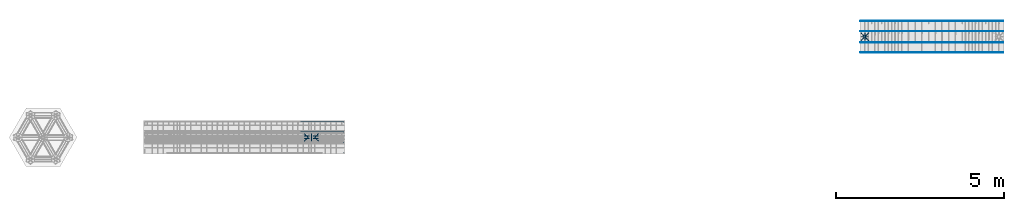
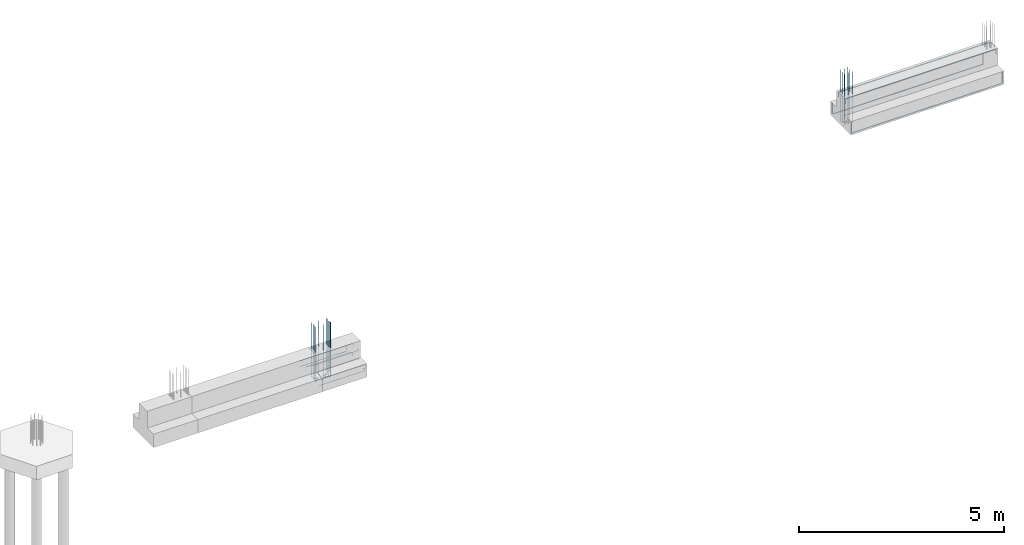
# One storey, part 22 of 23: 5 reinforcing bars.
"""IFC2X3 building model written with IfcOpenShell, lengths in metres."""

from ifc_helpers import new_model, entity, si_unit, direction, frame, origin, place, context, subcontext, project, spatial, shape, source, transform, mapped, element, save


model = new_model("IFC2X3")

# Units and contexts
model_context = context("Model", 3, precision=0.0, world=origin(), true_north=direction((0.0, 1.0)))
plan_context = context("Plan", 3, precision=0.0, world=origin(), true_north=direction((0.0, 1.0)))
body_context = subcontext(model_context, "Body", "Model", "MODEL_VIEW", scale=1.0)
ifc_project = project(units=[si_unit("LENGTHUNIT", "METRE"), si_unit("AREAUNIT", "SQUARE_METRE"), si_unit("VOLUMEUNIT", "CUBIC_METRE"), si_unit("PLANEANGLEUNIT", "RADIAN"), si_unit("THERMODYNAMICTEMPERATUREUNIT", "DEGREE_CELSIUS"), si_unit("FORCEUNIT", "NEWTON"), si_unit("MASSUNIT", "GRAM", prefix="KILO")], contexts=[model_context, plan_context])

# Site, building, storey
placement = place(None, origin())
site = spatial("IfcSite", under=ifc_project, at=placement, Name="Default Site", CompositionType="ELEMENT")
building = spatial("IfcBuilding", under=site, at=placement, Name="Default Building", CompositionType="ELEMENT")
storey_placement = place(placement, frame((0.0, 0.0, 0.0), z_axis=(1.0, 0.0, 0.0), x_axis=(0.0, 0.0, 1.0)))
storey = spatial("IfcBuildingStorey", under=building, at=storey_placement, Name="Piano 0", CompositionType="ELEMENT", Elevation=0.0)

# Reinforcing bars
shared_shape_1 = source(origin(), body_context, None, "AdvancedSweptSolid", [
    entity("IfcSweptDiskSolid", entity("IfcCompositeCurve", [entity("IfcCompositeCurveSegment", "CONTINUOUS", True, entity("IfcPolyline", [entity("IfcCartesianPoint", [0.0, 0.0, 0.0]), entity("IfcCartesianPoint", [0.326909, 0.0, 0.0]), entity("IfcCartesianPoint", [1.274909, 0.0, 0.0]), entity("IfcCartesianPoint", [1.286909, -0.003215, 0.0]), entity("IfcCartesianPoint", [1.295693, -0.012, 0.0]), entity("IfcCartesianPoint", [1.298909, -0.024, 0.0]), entity("IfcCartesianPoint", [1.298909, -0.12, 0.0])]))], False), 0.006, 0.0, 0.0),
])
shared_shape_2 = source(origin(), body_context, None, "MappedRepresentation", [mapped(shared_shape_1, transform((15.673091, 0.166, -0.298)))])
shared_shape_3 = source(origin(), body_context, None, "AdvancedSweptSolid", [
    entity("IfcSweptDiskSolid", entity("IfcCompositeCurve", [entity("IfcCompositeCurveSegment", "CONTINUOUS", True, entity("IfcPolyline", [entity("IfcCartesianPoint", [0.0, 0.0, 0.0]), entity("IfcCartesianPoint", [0.326909, 0.0, 0.0]), entity("IfcCartesianPoint", [1.274909, 0.0, 0.0]), entity("IfcCartesianPoint", [1.286909, 0.003215, 0.0]), entity("IfcCartesianPoint", [1.295693, 0.012, 0.0]), entity("IfcCartesianPoint", [1.298909, 0.024, 0.0]), entity("IfcCartesianPoint", [1.298909, 0.12, 0.0])]))], False), 0.006, 0.0, 0.0),
])
shared_shape_4 = source(origin(), body_context, None, "MappedRepresentation", [mapped(shared_shape_3, transform((15.673091, -0.166, -0.298)))])
shared_shape_5 = source(origin(), body_context, None, "AdvancedSweptSolid", [
    entity("IfcSweptDiskSolid", entity("IfcCompositeCurve", [entity("IfcCompositeCurveSegment", "CONTINUOUS", True, entity("IfcPolyline", [entity("IfcCartesianPoint", [0.0, 0.0, 0.0]), entity("IfcCartesianPoint", [0.326909, 0.0, 0.0]), entity("IfcCartesianPoint", [1.274909, 0.0, 0.0]), entity("IfcCartesianPoint", [1.286909, -0.003215, 0.0]), entity("IfcCartesianPoint", [1.295693, -0.012, 0.0]), entity("IfcCartesianPoint", [1.298909, -0.024, 0.0]), entity("IfcCartesianPoint", [1.298909, -0.12, 0.0])]))], False), 0.006, 0.0, 0.0),
])
shared_shape_6 = source(origin(), body_context, None, "MappedRepresentation", [mapped(shared_shape_5, transform((15.673091, 0.466, -0.713)))])
shared_shape_7 = source(origin(), body_context, None, "AdvancedSweptSolid", [
    entity("IfcSweptDiskSolid", entity("IfcCompositeCurve", [entity("IfcCompositeCurveSegment", "CONTINUOUS", True, entity("IfcPolyline", [entity("IfcCartesianPoint", [0.0, 0.0, 0.0]), entity("IfcCartesianPoint", [0.326909, 0.0, 0.0]), entity("IfcCartesianPoint", [1.274909, 0.0, 0.0]), entity("IfcCartesianPoint", [1.286909, 0.003215, 0.0]), entity("IfcCartesianPoint", [1.295693, 0.012, 0.0]), entity("IfcCartesianPoint", [1.298909, 0.024, 0.0]), entity("IfcCartesianPoint", [1.298909, 0.12, 0.0])]))], False), 0.006, 0.0, 0.0),
])
shared_shape_8 = source(origin(), body_context, None, "MappedRepresentation", [mapped(shared_shape_7, transform((15.673091, -0.466, -0.713)))])
shared_shape_9 = source(origin(), body_context, None, "AdvancedSweptSolid", [
    entity("IfcSweptDiskSolid", entity("IfcCompositeCurve", [entity("IfcCompositeCurveSegment", "CONTINUOUS", True, entity("IfcPolyline", [entity("IfcCartesianPoint", [0.0, 0.0, 0.0]), entity("IfcCartesianPoint", [0.326909, 0.0, 0.0]), entity("IfcCartesianPoint", [1.274909, 0.0, 0.0]), entity("IfcCartesianPoint", [1.286909, 0.0, -0.003215]), entity("IfcCartesianPoint", [1.295693, 0.0, -0.012]), entity("IfcCartesianPoint", [1.298909, 0.0, -0.024]), entity("IfcCartesianPoint", [1.298909, 0.0, -0.12])]))], False), 0.006, 0.0, 0.0),
])
shared_shape_10 = source(origin(), body_context, None, "MappedRepresentation", [mapped(shared_shape_9, transform((15.673091, 0.166, -0.542)))])
shared_shape_11 = source(origin(), body_context, None, "AdvancedSweptSolid", [
    entity("IfcSweptDiskSolid", entity("IfcCompositeCurve", [entity("IfcCompositeCurveSegment", "CONTINUOUS", True, entity("IfcPolyline", [entity("IfcCartesianPoint", [0.0, 0.0, 0.0]), entity("IfcCartesianPoint", [0.326909, 0.0, 0.0]), entity("IfcCartesianPoint", [1.274909, 0.0, 0.0]), entity("IfcCartesianPoint", [1.286909, 0.0, -0.003215]), entity("IfcCartesianPoint", [1.295693, 0.0, -0.012]), entity("IfcCartesianPoint", [1.298909, 0.0, -0.024]), entity("IfcCartesianPoint", [1.298909, 0.0, -0.12])]))], False), 0.006, 0.0, 0.0),
])
shared_shape_12 = source(origin(), body_context, None, "MappedRepresentation", [mapped(shared_shape_11, transform((15.673091, 0.466, -0.542)))])
shared_shape_13 = source(origin(), body_context, None, "AdvancedSweptSolid", [
    entity("IfcSweptDiskSolid", entity("IfcCompositeCurve", [entity("IfcCompositeCurveSegment", "CONTINUOUS", True, entity("IfcPolyline", [entity("IfcCartesianPoint", [0.0, 0.0, 0.0]), entity("IfcCartesianPoint", [0.326909, 0.0, 0.0]), entity("IfcCartesianPoint", [1.274909, 0.0, 0.0]), entity("IfcCartesianPoint", [1.286909, 0.0, -0.003215]), entity("IfcCartesianPoint", [1.295693, 0.0, -0.012]), entity("IfcCartesianPoint", [1.298909, 0.0, -0.024]), entity("IfcCartesianPoint", [1.298909, 0.0, -0.12])]))], False), 0.006, 0.0, 0.0),
])
shared_shape_14 = source(origin(), body_context, None, "MappedRepresentation", [mapped(shared_shape_13, transform((15.673091, -0.466, -0.542)))])
shared_shape_15 = source(origin(), body_context, None, "AdvancedSweptSolid", [
    entity("IfcSweptDiskSolid", entity("IfcCompositeCurve", [entity("IfcCompositeCurveSegment", "CONTINUOUS", True, entity("IfcPolyline", [entity("IfcCartesianPoint", [0.0, 0.0, 0.0]), entity("IfcCartesianPoint", [0.326909, 0.0, 0.0]), entity("IfcCartesianPoint", [1.274909, 0.0, 0.0]), entity("IfcCartesianPoint", [1.286909, 0.0, -0.003215]), entity("IfcCartesianPoint", [1.295693, 0.0, -0.012]), entity("IfcCartesianPoint", [1.298909, 0.0, -0.024]), entity("IfcCartesianPoint", [1.298909, 0.0, -0.12])]))], False), 0.006, 0.0, 0.0),
])
shared_shape_16 = source(origin(), body_context, None, "MappedRepresentation", [mapped(shared_shape_15, transform((15.673091, -0.166, -0.542)))])
element("IfcReinforcingBar", 1, at=placement, inside=storey, Name="Arm Generica; Trave:3 [Piano:0]", BarLength=11.31908, BarRole="NOTDEFINED", BarSurface="TEXTURED", NominalDiameter=0.012, shapes=[
    shape(body_context, None, "MappedRepresentation", [mapped(shared_shape_2, transform((0.0, 0.0, 0.0))), mapped(shared_shape_4, transform((0.0, 0.0, 0.0))), mapped(shared_shape_6, transform((0.0, 0.0, 0.0))), mapped(shared_shape_8, transform((0.0, 0.0, 0.0))), mapped(shared_shape_10, transform((0.0, 0.0, 0.0))), mapped(shared_shape_12, transform((0.0, 0.0, 0.0))), mapped(shared_shape_14, transform((0.0, 0.0, 0.0))), mapped(shared_shape_16, transform((0.0, 0.0, 0.0)))]),
])
shared_shape_17 = source(origin(), body_context, None, "AdvancedSweptSolid", [
    entity("IfcSweptDiskSolid", entity("IfcCompositeCurve", [entity("IfcCompositeCurveSegment", "CONTINUOUS", True, entity("IfcPolyline", [entity("IfcCartesianPoint", [0.0, 0.0, 0.0]), entity("IfcCartesianPoint", [0.0, 0.0, 0.112]), entity("IfcCartesianPoint", [0.003751, 0.0, 0.126]), entity("IfcCartesianPoint", [0.014, 0.0, 0.136249]), entity("IfcCartesianPoint", [0.028, 0.0, 0.14]), entity("IfcCartesianPoint", [4.216, 0.0, 0.14]), entity("IfcCartesianPoint", [4.23, 0.0, 0.136249]), entity("IfcCartesianPoint", [4.240249, 0.0, 0.126]), entity("IfcCartesianPoint", [4.244, 0.0, 0.112]), entity("IfcCartesianPoint", [4.244, 0.0, 0.0])]))], False), 0.007, 0.0, 0.0),
])
shared_shape_18 = source(origin(), body_context, None, "MappedRepresentation", [mapped(shared_shape_17, transform((32.378, 2.835, -0.182)))])
shared_shape_19 = source(origin(), body_context, None, "AdvancedSweptSolid", [
    entity("IfcSweptDiskSolid", entity("IfcCompositeCurve", [entity("IfcCompositeCurveSegment", "CONTINUOUS", True, entity("IfcPolyline", [entity("IfcCartesianPoint", [0.0, 0.0, 0.0]), entity("IfcCartesianPoint", [0.0, 0.0, 0.112]), entity("IfcCartesianPoint", [0.003751, 0.0, 0.126]), entity("IfcCartesianPoint", [0.014, 0.0, 0.136249]), entity("IfcCartesianPoint", [0.028, 0.0, 0.14]), entity("IfcCartesianPoint", [4.216, 0.0, 0.14]), entity("IfcCartesianPoint", [4.23, 0.0, 0.136249]), entity("IfcCartesianPoint", [4.240249, 0.0, 0.126]), entity("IfcCartesianPoint", [4.244, 0.0, 0.112]), entity("IfcCartesianPoint", [4.244, 0.0, 0.0])]))], False), 0.007, 0.0, 0.0),
])
shared_shape_20 = source(origin(), body_context, None, "MappedRepresentation", [mapped(shared_shape_19, transform((32.378, 3.165, -0.182)))])
element("IfcReinforcingBar", 2, at=placement, inside=storey, Name="Arm Superiore; Trave:4 [Piano:0]", BarLength=9.022963, BarRole="MAIN", BarSurface="TEXTURED", NominalDiameter=0.014, shapes=[
    shape(body_context, None, "MappedRepresentation", [mapped(shared_shape_18, transform((0.0, 0.0, 0.0))), mapped(shared_shape_20, transform((0.0, 0.0, 0.0)))]),
])
shared_shape_21 = source(origin(), body_context, None, "AdvancedSweptSolid", [
    entity("IfcSweptDiskSolid", entity("IfcCompositeCurve", [entity("IfcCompositeCurveSegment", "CONTINUOUS", True, entity("IfcPolyline", [entity("IfcCartesianPoint", [0.0, 0.0, 0.0]), entity("IfcCartesianPoint", [0.0, 0.0, -0.296]), entity("IfcCartesianPoint", [0.003751, 0.0, -0.31]), entity("IfcCartesianPoint", [0.014, 0.0, -0.320249]), entity("IfcCartesianPoint", [0.028, 0.0, -0.324]), entity("IfcCartesianPoint", [4.216, 0.0, -0.324]), entity("IfcCartesianPoint", [4.23, 0.0, -0.320249]), entity("IfcCartesianPoint", [4.240249, 0.0, -0.31]), entity("IfcCartesianPoint", [4.244, 0.0, -0.296]), entity("IfcCartesianPoint", [4.244, 0.0, 0.0])]))], False), 0.007, 0.0, 0.0),
])
shared_shape_22 = source(origin(), body_context, None, "MappedRepresentation", [mapped(shared_shape_21, transform((32.378, 2.535, -0.548)))])
shared_shape_23 = source(origin(), body_context, None, "AdvancedSweptSolid", [
    entity("IfcSweptDiskSolid", entity("IfcCompositeCurve", [entity("IfcCompositeCurveSegment", "CONTINUOUS", True, entity("IfcPolyline", [entity("IfcCartesianPoint", [0.0, 0.0, 0.0]), entity("IfcCartesianPoint", [0.0, 0.0, -0.296]), entity("IfcCartesianPoint", [0.003751, 0.0, -0.31]), entity("IfcCartesianPoint", [0.014, 0.0, -0.320249]), entity("IfcCartesianPoint", [0.028, 0.0, -0.324]), entity("IfcCartesianPoint", [4.216, 0.0, -0.324]), entity("IfcCartesianPoint", [4.23, 0.0, -0.320249]), entity("IfcCartesianPoint", [4.240249, 0.0, -0.31]), entity("IfcCartesianPoint", [4.244, 0.0, -0.296]), entity("IfcCartesianPoint", [4.244, 0.0, 0.0])]))], False), 0.007, 0.0, 0.0),
])
shared_shape_24 = source(origin(), body_context, None, "MappedRepresentation", [mapped(shared_shape_23, transform((32.378, 3.465, -0.548)))])
element("IfcReinforcingBar", 3, at=placement, inside=storey, Name="Arm Inferiore; Trave:4 [Piano:0]", BarLength=9.758963, BarRole="MAIN", BarSurface="TEXTURED", NominalDiameter=0.014, shapes=[
    shape(body_context, None, "MappedRepresentation", [mapped(shared_shape_22, transform((0.0, 0.0, 0.0))), mapped(shared_shape_24, transform((0.0, 0.0, 0.0)))]),
])
shared_shape_25 = source(origin(), body_context, None, "AdvancedSweptSolid", [
    entity("IfcSweptDiskSolid", entity("IfcCompositeCurve", [entity("IfcCompositeCurveSegment", "CONTINUOUS", True, entity("IfcPolyline", [entity("IfcCartesianPoint", [0.0, 0.0, 0.0]), entity("IfcCartesianPoint", [-0.079196, -0.079196, 0.0]), entity("IfcCartesianPoint", [-0.089095, -0.089095, 0.003751]), entity("IfcCartesianPoint", [-0.096342, -0.096342, 0.014]), entity("IfcCartesianPoint", [-0.098995, -0.098995, 0.028]), entity("IfcCartesianPoint", [-0.098995, -0.098995, 1.635])]))], False), 0.007, 0.0, 0.0),
])
shared_shape_26 = source(origin(), body_context, None, "MappedRepresentation", [mapped(shared_shape_25, transform((15.893894, -0.006106, -0.865)))])
shared_shape_27 = source(origin(), body_context, None, "AdvancedSweptSolid", [
    entity("IfcSweptDiskSolid", entity("IfcCompositeCurve", [entity("IfcCompositeCurveSegment", "CONTINUOUS", True, entity("IfcPolyline", [entity("IfcCartesianPoint", [0.0, 0.0, 0.0]), entity("IfcCartesianPoint", [0.079196, -0.079196, 0.0]), entity("IfcCartesianPoint", [0.089095, -0.089095, 0.003751]), entity("IfcCartesianPoint", [0.096342, -0.096342, 0.014]), entity("IfcCartesianPoint", [0.098995, -0.098995, 0.028]), entity("IfcCartesianPoint", [0.098995, -0.098995, 1.635])]))], False), 0.007, 0.0, 0.0),
])
shared_shape_28 = source(origin(), body_context, None, "MappedRepresentation", [mapped(shared_shape_27, transform((16.106106, -0.006106, -0.865)))])
shared_shape_29 = source(origin(), body_context, None, "AdvancedSweptSolid", [
    entity("IfcSweptDiskSolid", entity("IfcCompositeCurve", [entity("IfcCompositeCurveSegment", "CONTINUOUS", True, entity("IfcPolyline", [entity("IfcCartesianPoint", [0.0, 0.0, 0.0]), entity("IfcCartesianPoint", [0.079196, 0.079196, 0.0]), entity("IfcCartesianPoint", [0.089095, 0.089095, 0.003751]), entity("IfcCartesianPoint", [0.096342, 0.096342, 0.014]), entity("IfcCartesianPoint", [0.098995, 0.098995, 0.028]), entity("IfcCartesianPoint", [0.098995, 0.098995, 1.635])]))], False), 0.007, 0.0, 0.0),
])
shared_shape_30 = source(origin(), body_context, None, "MappedRepresentation", [mapped(shared_shape_29, transform((16.106106, 0.006106, -0.865)))])
shared_shape_31 = source(origin(), body_context, None, "AdvancedSweptSolid", [
    entity("IfcSweptDiskSolid", entity("IfcCompositeCurve", [entity("IfcCompositeCurveSegment", "CONTINUOUS", True, entity("IfcPolyline", [entity("IfcCartesianPoint", [0.0, 0.0, 0.0]), entity("IfcCartesianPoint", [-0.079196, 0.079196, 0.0]), entity("IfcCartesianPoint", [-0.089095, 0.089095, 0.003751]), entity("IfcCartesianPoint", [-0.096342, 0.096342, 0.014]), entity("IfcCartesianPoint", [-0.098995, 0.098995, 0.028]), entity("IfcCartesianPoint", [-0.098995, 0.098995, 1.635])]))], False), 0.007, 0.0, 0.0),
])
shared_shape_32 = source(origin(), body_context, None, "MappedRepresentation", [mapped(shared_shape_31, transform((15.893894, 0.006106, -0.865)))])
shared_shape_33 = source(origin(), body_context, None, "AdvancedSweptSolid", [
    entity("IfcSweptDiskSolid", entity("IfcCompositeCurve", [entity("IfcCompositeCurveSegment", "CONTINUOUS", True, entity("IfcPolyline", [entity("IfcCartesianPoint", [0.0, 0.0, 0.0]), entity("IfcCartesianPoint", [0.0, -0.112, 0.0]), entity("IfcCartesianPoint", [0.0, -0.126, 0.003751]), entity("IfcCartesianPoint", [0.0, -0.136249, 0.014]), entity("IfcCartesianPoint", [0.0, -0.14, 0.028]), entity("IfcCartesianPoint", [0.0, -0.14, 1.635])]))], False), 0.007, 0.0, 0.0),
])
shared_shape_34 = source(origin(), body_context, None, "MappedRepresentation", [mapped(shared_shape_33, transform((16.0, 0.039, -0.865)))])
shared_shape_35 = source(origin(), body_context, None, "AdvancedSweptSolid", [
    entity("IfcSweptDiskSolid", entity("IfcCompositeCurve", [entity("IfcCompositeCurveSegment", "CONTINUOUS", True, entity("IfcPolyline", [entity("IfcCartesianPoint", [0.0, 0.0, 0.0]), entity("IfcCartesianPoint", [0.112, 0.0, 0.0]), entity("IfcCartesianPoint", [0.126, 0.0, 0.003751]), entity("IfcCartesianPoint", [0.136249, 0.0, 0.014]), entity("IfcCartesianPoint", [0.14, 0.0, 0.028]), entity("IfcCartesianPoint", [0.14, 0.0, 1.635])]))], False), 0.007, 0.0, 0.0),
])
shared_shape_36 = source(origin(), body_context, None, "MappedRepresentation", [mapped(shared_shape_35, transform((16.061, -0.038333, -0.865)))])
shared_shape_37 = source(origin(), body_context, None, "AdvancedSweptSolid", [
    entity("IfcSweptDiskSolid", entity("IfcCompositeCurve", [entity("IfcCompositeCurveSegment", "CONTINUOUS", True, entity("IfcPolyline", [entity("IfcCartesianPoint", [0.0, 0.0, 0.0]), entity("IfcCartesianPoint", [0.112, 0.0, 0.0]), entity("IfcCartesianPoint", [0.126, 0.0, 0.003751]), entity("IfcCartesianPoint", [0.136249, 0.0, 0.014]), entity("IfcCartesianPoint", [0.14, 0.0, 0.028]), entity("IfcCartesianPoint", [0.14, 0.0, 1.635])]))], False), 0.007, 0.0, 0.0),
])
shared_shape_38 = source(origin(), body_context, None, "MappedRepresentation", [mapped(shared_shape_37, transform((16.061, 0.038333, -0.865)))])
shared_shape_39 = source(origin(), body_context, None, "AdvancedSweptSolid", [
    entity("IfcSweptDiskSolid", entity("IfcCompositeCurve", [entity("IfcCompositeCurveSegment", "CONTINUOUS", True, entity("IfcPolyline", [entity("IfcCartesianPoint", [0.0, 0.0, 0.0]), entity("IfcCartesianPoint", [0.0, 0.112, 0.0]), entity("IfcCartesianPoint", [0.0, 0.126, 0.003751]), entity("IfcCartesianPoint", [0.0, 0.136249, 0.014]), entity("IfcCartesianPoint", [0.0, 0.14, 0.028]), entity("IfcCartesianPoint", [0.0, 0.14, 1.635])]))], False), 0.007, 0.0, 0.0),
])
shared_shape_40 = source(origin(), body_context, None, "MappedRepresentation", [mapped(shared_shape_39, transform((16.0, -0.039, -0.865)))])
shared_shape_41 = source(origin(), body_context, None, "AdvancedSweptSolid", [
    entity("IfcSweptDiskSolid", entity("IfcCompositeCurve", [entity("IfcCompositeCurveSegment", "CONTINUOUS", True, entity("IfcPolyline", [entity("IfcCartesianPoint", [0.0, 0.0, 0.0]), entity("IfcCartesianPoint", [-0.112, 0.0, 0.0]), entity("IfcCartesianPoint", [-0.126, 0.0, 0.003751]), entity("IfcCartesianPoint", [-0.136249, 0.0, 0.014]), entity("IfcCartesianPoint", [-0.14, 0.0, 0.028]), entity("IfcCartesianPoint", [-0.14, 0.0, 1.635])]))], False), 0.007, 0.0, 0.0),
])
shared_shape_42 = source(origin(), body_context, None, "MappedRepresentation", [mapped(shared_shape_41, transform((15.939, 0.038333, -0.865)))])
shared_shape_43 = source(origin(), body_context, None, "AdvancedSweptSolid", [
    entity("IfcSweptDiskSolid", entity("IfcCompositeCurve", [entity("IfcCompositeCurveSegment", "CONTINUOUS", True, entity("IfcPolyline", [entity("IfcCartesianPoint", [0.0, 0.0, 0.0]), entity("IfcCartesianPoint", [-0.112, 0.0, 0.0]), entity("IfcCartesianPoint", [-0.126, 0.0, 0.003751]), entity("IfcCartesianPoint", [-0.136249, 0.0, 0.014]), entity("IfcCartesianPoint", [-0.14, 0.0, 0.028]), entity("IfcCartesianPoint", [-0.14, 0.0, 1.635])]))], False), 0.007, 0.0, 0.0),
])
shared_shape_44 = source(origin(), body_context, None, "MappedRepresentation", [mapped(shared_shape_43, transform((15.939, -0.038333, -0.865)))])
element("IfcReinforcingBar", 4, at=placement, inside=storey, Name="Arm Ancoraggio; Nodo:5 [Piano:0]", BarLength=17.75, BarSurface="TEXTURED", NominalDiameter=0.014, shapes=[
    shape(body_context, None, "MappedRepresentation", [mapped(shared_shape_26, transform((0.0, 0.0, 0.0))), mapped(shared_shape_28, transform((0.0, 0.0, 0.0))), mapped(shared_shape_30, transform((0.0, 0.0, 0.0))), mapped(shared_shape_32, transform((0.0, 0.0, 0.0))), mapped(shared_shape_34, transform((0.0, 0.0, 0.0))), mapped(shared_shape_36, transform((0.0, 0.0, 0.0))), mapped(shared_shape_38, transform((0.0, 0.0, 0.0))), mapped(shared_shape_40, transform((0.0, 0.0, 0.0))), mapped(shared_shape_42, transform((0.0, 0.0, 0.0))), mapped(shared_shape_44, transform((0.0, 0.0, 0.0)))]),
])
shared_shape_45 = source(origin(), body_context, None, "AdvancedSweptSolid", [
    entity("IfcSweptDiskSolid", entity("IfcCompositeCurve", [entity("IfcCompositeCurveSegment", "CONTINUOUS", True, entity("IfcPolyline", [entity("IfcCartesianPoint", [0.0, 0.0, 0.0]), entity("IfcCartesianPoint", [-0.067882, -0.067882, 0.0]), entity("IfcCartesianPoint", [-0.076368, -0.076368, 0.003215]), entity("IfcCartesianPoint", [-0.082579, -0.082579, 0.012]), entity("IfcCartesianPoint", [-0.084853, -0.084853, 0.024]), entity("IfcCartesianPoint", [-0.084853, -0.084853, 1.526])]))], False), 0.006, 0.0, 0.0),
])
shared_shape_46 = source(origin(), body_context, None, "MappedRepresentation", [mapped(shared_shape_45, transform((32.477338, 2.977338, -0.866)))])
shared_shape_47 = source(origin(), body_context, None, "AdvancedSweptSolid", [
    entity("IfcSweptDiskSolid", entity("IfcCompositeCurve", [entity("IfcCompositeCurveSegment", "CONTINUOUS", True, entity("IfcPolyline", [entity("IfcCartesianPoint", [0.0, 0.0, 0.0]), entity("IfcCartesianPoint", [0.067882, -0.067882, 0.0]), entity("IfcCartesianPoint", [0.076368, -0.076368, 0.003215]), entity("IfcCartesianPoint", [0.082579, -0.082579, 0.012]), entity("IfcCartesianPoint", [0.084853, -0.084853, 0.024]), entity("IfcCartesianPoint", [0.084853, -0.084853, 1.526])]))], False), 0.006, 0.0, 0.0),
])
shared_shape_48 = source(origin(), body_context, None, "MappedRepresentation", [mapped(shared_shape_47, transform((32.522662, 2.977338, -0.866)))])
shared_shape_49 = source(origin(), body_context, None, "AdvancedSweptSolid", [
    entity("IfcSweptDiskSolid", entity("IfcCompositeCurve", [entity("IfcCompositeCurveSegment", "CONTINUOUS", True, entity("IfcPolyline", [entity("IfcCartesianPoint", [0.0, 0.0, 0.0]), entity("IfcCartesianPoint", [0.067882, 0.067882, 0.0]), entity("IfcCartesianPoint", [0.076368, 0.076368, 0.003215]), entity("IfcCartesianPoint", [0.082579, 0.082579, 0.012]), entity("IfcCartesianPoint", [0.084853, 0.084853, 0.024]), entity("IfcCartesianPoint", [0.084853, 0.084853, 1.526])]))], False), 0.006, 0.0, 0.0),
])
shared_shape_50 = source(origin(), body_context, None, "MappedRepresentation", [mapped(shared_shape_49, transform((32.522662, 3.022662, -0.866)))])
shared_shape_51 = source(origin(), body_context, None, "AdvancedSweptSolid", [
    entity("IfcSweptDiskSolid", entity("IfcCompositeCurve", [entity("IfcCompositeCurveSegment", "CONTINUOUS", True, entity("IfcPolyline", [entity("IfcCartesianPoint", [0.0, 0.0, 0.0]), entity("IfcCartesianPoint", [-0.067882, 0.067882, 0.0]), entity("IfcCartesianPoint", [-0.076368, 0.076368, 0.003215]), entity("IfcCartesianPoint", [-0.082579, 0.082579, 0.012]), entity("IfcCartesianPoint", [-0.084853, 0.084853, 0.024]), entity("IfcCartesianPoint", [-0.084853, 0.084853, 1.526])]))], False), 0.006, 0.0, 0.0),
])
shared_shape_52 = source(origin(), body_context, None, "MappedRepresentation", [mapped(shared_shape_51, transform((32.477338, 3.022662, -0.866)))])
shared_shape_53 = source(origin(), body_context, None, "AdvancedSweptSolid", [
    entity("IfcSweptDiskSolid", entity("IfcCompositeCurve", [entity("IfcCompositeCurveSegment", "CONTINUOUS", True, entity("IfcPolyline", [entity("IfcCartesianPoint", [0.0, 0.0, 0.0]), entity("IfcCartesianPoint", [0.0, -0.096, 0.0]), entity("IfcCartesianPoint", [0.0, -0.108, 0.003215]), entity("IfcCartesianPoint", [0.0, -0.116785, 0.012]), entity("IfcCartesianPoint", [0.0, -0.12, 0.024]), entity("IfcCartesianPoint", [0.0, -0.12, 1.526])]))], False), 0.006, 0.0, 0.0),
])
shared_shape_54 = source(origin(), body_context, None, "MappedRepresentation", [mapped(shared_shape_53, transform((32.5, 3.016, -0.866)))])
shared_shape_55 = source(origin(), body_context, None, "AdvancedSweptSolid", [
    entity("IfcSweptDiskSolid", entity("IfcCompositeCurve", [entity("IfcCompositeCurveSegment", "CONTINUOUS", True, entity("IfcPolyline", [entity("IfcCartesianPoint", [0.0, 0.0, 0.0]), entity("IfcCartesianPoint", [0.096, 0.0, 0.0]), entity("IfcCartesianPoint", [0.108, 0.0, 0.003215]), entity("IfcCartesianPoint", [0.116785, 0.0, 0.012]), entity("IfcCartesianPoint", [0.12, 0.0, 0.024]), entity("IfcCartesianPoint", [0.12, 0.0, 1.526])]))], False), 0.006, 0.0, 0.0),
])
shared_shape_56 = source(origin(), body_context, None, "MappedRepresentation", [mapped(shared_shape_55, transform((32.484, 3.0, -0.866)))])
shared_shape_57 = source(origin(), body_context, None, "AdvancedSweptSolid", [
    entity("IfcSweptDiskSolid", entity("IfcCompositeCurve", [entity("IfcCompositeCurveSegment", "CONTINUOUS", True, entity("IfcPolyline", [entity("IfcCartesianPoint", [0.0, 0.0, 0.0]), entity("IfcCartesianPoint", [0.0, 0.096, 0.0]), entity("IfcCartesianPoint", [0.0, 0.108, 0.003215]), entity("IfcCartesianPoint", [0.0, 0.116785, 0.012]), entity("IfcCartesianPoint", [0.0, 0.12, 0.024]), entity("IfcCartesianPoint", [0.0, 0.12, 1.526])]))], False), 0.006, 0.0, 0.0),
])
shared_shape_58 = source(origin(), body_context, None, "MappedRepresentation", [mapped(shared_shape_57, transform((32.5, 2.984, -0.866)))])
shared_shape_59 = source(origin(), body_context, None, "AdvancedSweptSolid", [
    entity("IfcSweptDiskSolid", entity("IfcCompositeCurve", [entity("IfcCompositeCurveSegment", "CONTINUOUS", True, entity("IfcPolyline", [entity("IfcCartesianPoint", [0.0, 0.0, 0.0]), entity("IfcCartesianPoint", [-0.096, 0.0, 0.0]), entity("IfcCartesianPoint", [-0.108, 0.0, 0.003215]), entity("IfcCartesianPoint", [-0.116785, 0.0, 0.012]), entity("IfcCartesianPoint", [-0.12, 0.0, 0.024]), entity("IfcCartesianPoint", [-0.12, 0.0, 1.526])]))], False), 0.006, 0.0, 0.0),
])
shared_shape_60 = source(origin(), body_context, None, "MappedRepresentation", [mapped(shared_shape_59, transform((32.516, 3.0, -0.866)))])
element("IfcReinforcingBar", 5, at=placement, inside=storey, Name="Arm Ancoraggio; Nodo:30 [Piano:0]", BarLength=13.08216, BarSurface="TEXTURED", NominalDiameter=0.012, shapes=[
    shape(body_context, None, "MappedRepresentation", [mapped(shared_shape_46, transform((0.0, 0.0, 0.0))), mapped(shared_shape_48, transform((0.0, 0.0, 0.0))), mapped(shared_shape_50, transform((0.0, 0.0, 0.0))), mapped(shared_shape_52, transform((0.0, 0.0, 0.0))), mapped(shared_shape_54, transform((0.0, 0.0, 0.0))), mapped(shared_shape_56, transform((0.0, 0.0, 0.0))), mapped(shared_shape_58, transform((0.0, 0.0, 0.0))), mapped(shared_shape_60, transform((0.0, 0.0, 0.0)))]),
])

save(model, "model.ifc")
